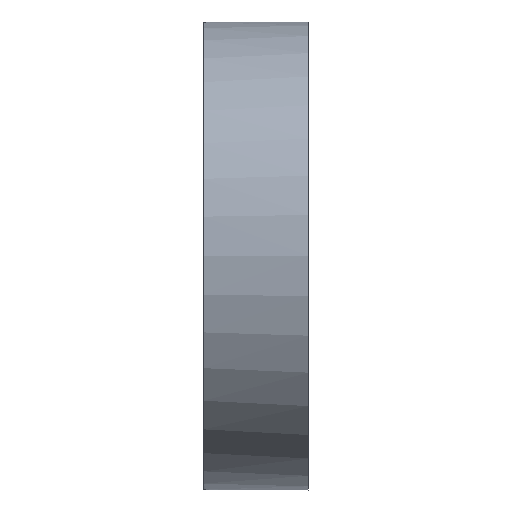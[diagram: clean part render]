
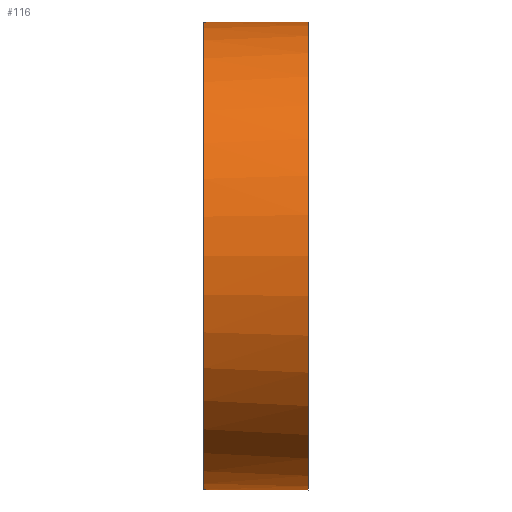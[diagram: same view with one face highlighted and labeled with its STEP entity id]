
A CAD part, top view. The second image highlights one B-rep face of the part: STEP entity #116.
In plain terms, the highlighted cylindrical face has radius 17 mm (diameter 34 mm), a full revolution.
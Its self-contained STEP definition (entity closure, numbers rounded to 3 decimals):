
#116 = ADVANCED_FACE( '', ( #228, #229 ), #230, .T. );
#228 = FACE_OUTER_BOUND( '', #328, .T. );
#229 = FACE_OUTER_BOUND( '', #329, .T. );
#230 = CYLINDRICAL_SURFACE( '', #330, 17. );
#328 = EDGE_LOOP( '', ( #461, #462, #463, #464 ) );
#329 = EDGE_LOOP( '', ( #465 ) );
#330 = AXIS2_PLACEMENT_3D( '', #466, #467, #468 );
#461 = ORIENTED_EDGE( '', *, *, #535, .F. );
#462 = ORIENTED_EDGE( '', *, *, #531, .T. );
#463 = ORIENTED_EDGE( '', *, *, #511, .F. );
#464 = ORIENTED_EDGE( '', *, *, #540, .T. );
#465 = ORIENTED_EDGE( '', *, *, #520, .T. );
#466 = CARTESIAN_POINT( '', ( -60., 0., 0. ) );
#467 = DIRECTION( '', ( 1., 0., 0. ) );
#468 = DIRECTION( '', ( 0., 0., 1. ) );
#511 = EDGE_CURVE( '', #574, #575, #576, .T. );
#520 = EDGE_CURVE( '', #591, #591, #592, .T. );
#531 = EDGE_CURVE( '', #606, #575, #608, .T. );
#535 = EDGE_CURVE( '', #606, #613, #614, .T. );
#540 = EDGE_CURVE( '', #574, #613, #620, .T. );
#574 = VERTEX_POINT( '', #654 );
#575 = VERTEX_POINT( '', #655 );
#576 = CIRCLE( '', #656, 17. );
#591 = VERTEX_POINT( '', #673 );
#592 = CIRCLE( '', #674, 17. );
#606 = VERTEX_POINT( '', #714 );
#608 = B_SPLINE_CURVE_WITH_KNOTS( '', 3, ( #717, #718, #719, #720, #721, #722, #723, #724, #725, #726, #727, #728, #729, #730 ), .UNSPECIFIED., .F., .F., ( 4, 2, 2, 2, 2, 2, 4 ), ( 0., 0., 0.001, 0.001, 0.002, 0.002, 0.003 ), .UNSPECIFIED. );
#613 = VERTEX_POINT( '', #735 );
#614 = CIRCLE( '', #736, 17. );
#620 = B_SPLINE_CURVE_WITH_KNOTS( '', 3, ( #743, #744, #745, #746, #747, #748, #749, #750, #751, #752, #753, #754, #755, #756 ), .UNSPECIFIED., .F., .F., ( 4, 2, 2, 2, 2, 2, 4 ), ( 0., 0., 0.001, 0.001, 0.002, 0.002, 0.003 ), .UNSPECIFIED. );
#654 = CARTESIAN_POINT( '', ( -7.6, 16.963, -1.118 ) );
#655 = CARTESIAN_POINT( '', ( -7.6, -16.963, -1.118 ) );
#656 = AXIS2_PLACEMENT_3D( '', #795, #796, #797 );
#673 = CARTESIAN_POINT( '', ( 0., 0., 17. ) );
#674 = AXIS2_PLACEMENT_3D( '', #815, #816, #817 );
#714 = CARTESIAN_POINT( '', ( -7.6, -16.963, 1.118 ) );
#717 = CARTESIAN_POINT( '', ( -7.6, -16.963, 1.118 ) );
#718 = CARTESIAN_POINT( '', ( -7.521, -16.968, 1.047 ) );
#719 = CARTESIAN_POINT( '', ( -7.451, -16.973, 0.97 ) );
#720 = CARTESIAN_POINT( '', ( -7.327, -16.981, 0.801 ) );
#721 = CARTESIAN_POINT( '', ( -7.273, -16.986, 0.708 ) );
#722 = CARTESIAN_POINT( '', ( -7.145, -16.996, 0.42 ) );
#723 = CARTESIAN_POINT( '', ( -7.1, -17., 0.209 ) );
#724 = CARTESIAN_POINT( '', ( -7.1, -17., -0.209 ) );
#725 = CARTESIAN_POINT( '', ( -7.145, -16.996, -0.42 ) );
#726 = CARTESIAN_POINT( '', ( -7.273, -16.986, -0.708 ) );
#727 = CARTESIAN_POINT( '', ( -7.327, -16.981, -0.8 ) );
#728 = CARTESIAN_POINT( '', ( -7.451, -16.973, -0.97 ) );
#729 = CARTESIAN_POINT( '', ( -7.521, -16.968, -1.047 ) );
#730 = CARTESIAN_POINT( '', ( -7.6, -16.963, -1.118 ) );
#735 = CARTESIAN_POINT( '', ( -7.6, 16.963, 1.118 ) );
#736 = AXIS2_PLACEMENT_3D( '', #831, #832, #833 );
#743 = CARTESIAN_POINT( '', ( -7.6, 16.963, -1.118 ) );
#744 = CARTESIAN_POINT( '', ( -7.521, 16.968, -1.047 ) );
#745 = CARTESIAN_POINT( '', ( -7.451, 16.973, -0.97 ) );
#746 = CARTESIAN_POINT( '', ( -7.327, 16.981, -0.801 ) );
#747 = CARTESIAN_POINT( '', ( -7.273, 16.986, -0.708 ) );
#748 = CARTESIAN_POINT( '', ( -7.145, 16.996, -0.42 ) );
#749 = CARTESIAN_POINT( '', ( -7.1, 17., -0.209 ) );
#750 = CARTESIAN_POINT( '', ( -7.1, 17., 0.209 ) );
#751 = CARTESIAN_POINT( '', ( -7.145, 16.996, 0.42 ) );
#752 = CARTESIAN_POINT( '', ( -7.273, 16.986, 0.708 ) );
#753 = CARTESIAN_POINT( '', ( -7.327, 16.981, 0.8 ) );
#754 = CARTESIAN_POINT( '', ( -7.451, 16.973, 0.97 ) );
#755 = CARTESIAN_POINT( '', ( -7.521, 16.968, 1.047 ) );
#756 = CARTESIAN_POINT( '', ( -7.6, 16.963, 1.118 ) );
#795 = CARTESIAN_POINT( '', ( -7.6, 0., 0. ) );
#796 = DIRECTION( '', ( -1., 0., 0. ) );
#797 = DIRECTION( '', ( 0., 0., 1. ) );
#815 = CARTESIAN_POINT( '', ( 0., 0., 0. ) );
#816 = DIRECTION( '', ( -1., 0., 0. ) );
#817 = DIRECTION( '', ( 0., 0., 1. ) );
#831 = CARTESIAN_POINT( '', ( -7.6, 0., 0. ) );
#832 = DIRECTION( '', ( -1., 0., 0. ) );
#833 = DIRECTION( '', ( 0., 0., 1. ) );
